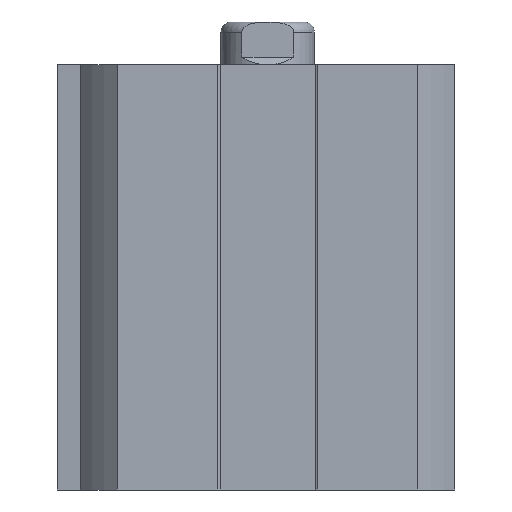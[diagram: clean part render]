
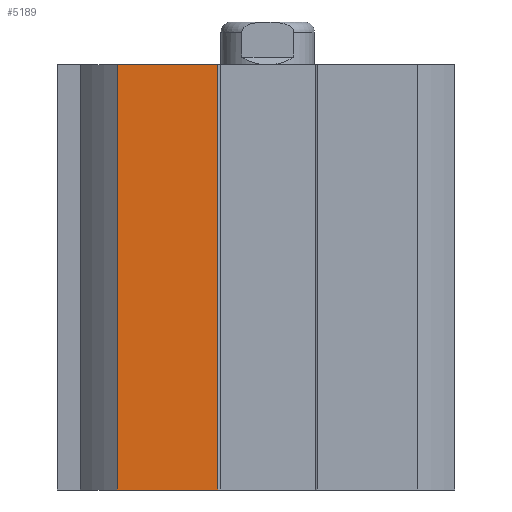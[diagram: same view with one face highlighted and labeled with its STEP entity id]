
A CAD part, left-side view. The second image highlights one B-rep face of the part: STEP entity #5189.
In plain terms, the highlighted planar face has unit normal (-1, 0, 0).
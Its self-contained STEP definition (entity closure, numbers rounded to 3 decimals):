
#112=PLANE('',#5507);
#630=ORIENTED_EDGE('',*,*,#1541,.F.);
#631=ORIENTED_EDGE('',*,*,#1542,.T.);
#632=ORIENTED_EDGE('',*,*,#1416,.F.);
#633=ORIENTED_EDGE('',*,*,#1543,.T.);
#1416=EDGE_CURVE('',#1896,#1893,#2226,.T.);
#1541=EDGE_CURVE('',#1989,#1990,#2305,.T.);
#1542=EDGE_CURVE('',#1989,#1893,#2306,.T.);
#1543=EDGE_CURVE('',#1896,#1990,#2307,.T.);
#1893=VERTEX_POINT('',#7160);
#1896=VERTEX_POINT('',#7165);
#1989=VERTEX_POINT('',#7434);
#1990=VERTEX_POINT('',#7435);
#2226=LINE('',#7166,#2480);
#2305=LINE('',#7433,#2559);
#2306=LINE('',#7436,#2560);
#2307=LINE('',#7437,#2561);
#2480=VECTOR('',#5945,1000.);
#2559=VECTOR('',#6192,1000.);
#2560=VECTOR('',#6193,1000.);
#2561=VECTOR('',#6194,1000.);
#2794=EDGE_LOOP('',(#630,#631,#632,#633));
#3135=FACE_BOUND('',#2794,.T.);
#5189=ADVANCED_FACE('',(#3135),#112,.T.);
#5507=AXIS2_PLACEMENT_3D('',#7432,#6190,#6191);
#5945=DIRECTION('',(0.,0.,1.));
#6190=DIRECTION('',(-1.,0.,0.));
#6191=DIRECTION('',(0.,0.,1.));
#6192=DIRECTION('',(0.,0.,-1.));
#6193=DIRECTION('',(0.,1.,0.));
#6194=DIRECTION('',(0.,-1.,0.));
#7160=CARTESIAN_POINT('',(-23.,19.261,54.5));
#7165=CARTESIAN_POINT('',(-23.,19.261,0.));
#7166=CARTESIAN_POINT('',(-23.,19.261,0.));
#7432=CARTESIAN_POINT('',(-23.,-19.261,0.));
#7433=CARTESIAN_POINT('',(-23.,6.375,39.5));
#7434=CARTESIAN_POINT('',(-23.,6.375,54.5));
#7435=CARTESIAN_POINT('',(-23.,6.375,0.));
#7436=CARTESIAN_POINT('',(-23.,6.375,54.5));
#7437=CARTESIAN_POINT('',(-23.,19.261,0.));
